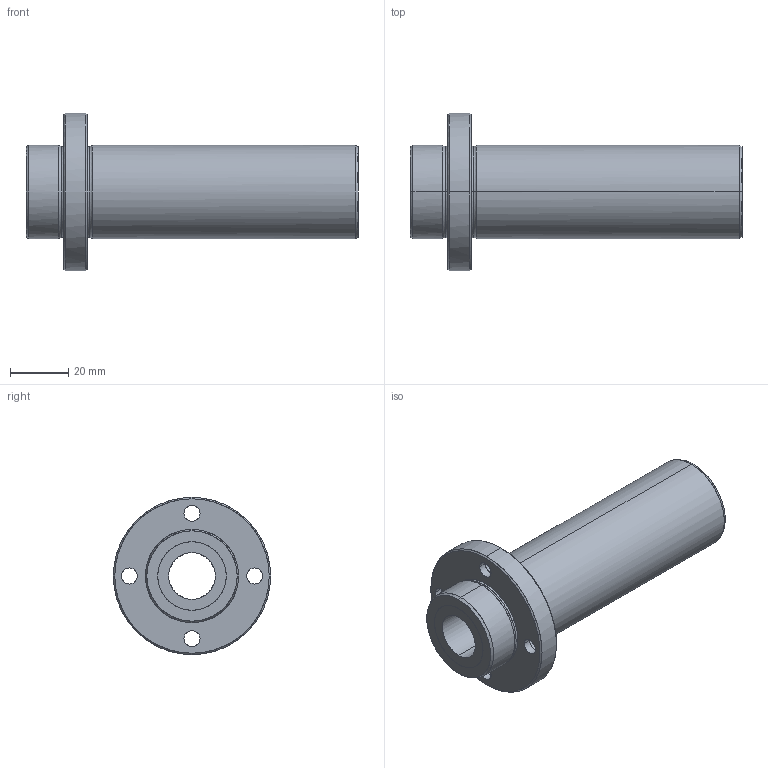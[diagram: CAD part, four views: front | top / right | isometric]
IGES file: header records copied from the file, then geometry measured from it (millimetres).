
Global section: file name: No Iges File Name specified; native system: AutoDesk Inventor R10; preprocessor: AutoDesk Inventor Iges Exporter R10; author: No Author specified; organization: No Organization specified; date: 20101216.171959; units: millimetre
Bounding box: 114 x 54 x 54 mm (x, y, z)
Surface area: 22409.8 mm2 (no closed solid volume)
Topology: 0 solids, 0 shells, 54 faces, 376 edges, 376 vertices
Faces by surface type: bspline 54
